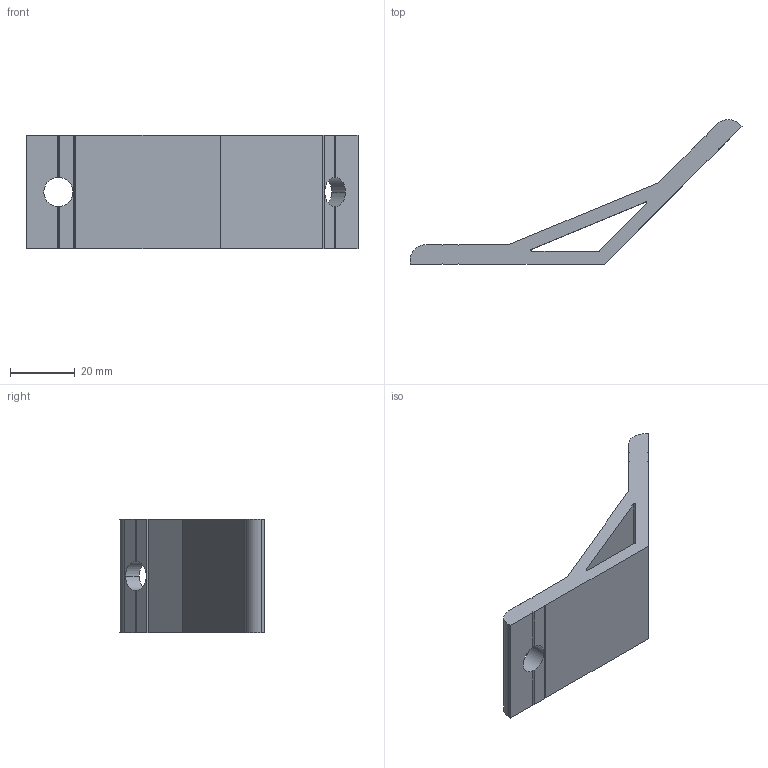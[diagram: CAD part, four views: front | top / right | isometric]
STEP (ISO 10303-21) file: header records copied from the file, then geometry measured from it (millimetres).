
FILE_DESCRIPTION (( 'STEP AP203' ), '1' );
FILE_NAME ('DALV13535-8.STEP', '2020-10-14T02:00:36', ( '' ), ( '' ), 'SwSTEP 2.0', 'SolidWorks 2017', '' );
FILE_SCHEMA (( 'CONFIG_CONTROL_DESIGN' ));
Length unit declared in the file: millimetre
Products named in the file (1): DALV13535-8
Bounding box: 102.43 x 44.58 x 35 mm (x, y, z)
Volume: 26467.4 mm3; surface area: 12896.8 mm2
Topology: 1 solids, 1 shells, 54 faces, 168 edges, 112 vertices
Faces by surface type: plane 44, cylinder 10
Entity records: 1949 total; most frequent: CARTESIAN_POINT 383, ORIENTED_EDGE 336, DIRECTION 290, EDGE_CURVE 168, VECTOR 124, LINE 124, VERTEX_POINT 112, AXIS2_PLACEMENT_3D 83
